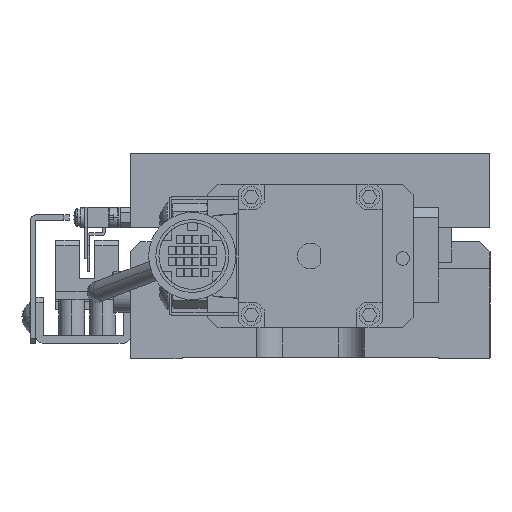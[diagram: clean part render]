
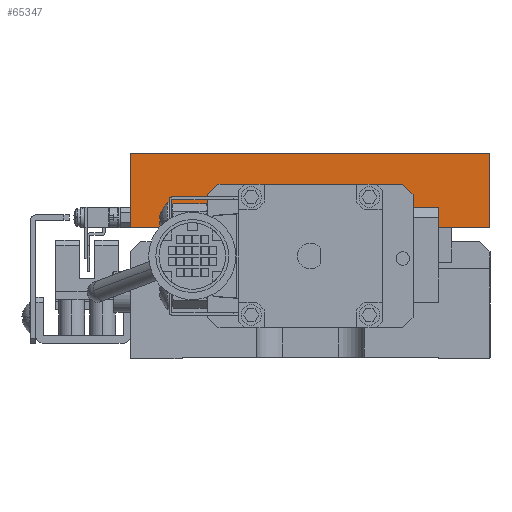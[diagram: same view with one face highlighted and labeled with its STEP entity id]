
A CAD part, left-side view. The second image highlights one B-rep face of the part: STEP entity #65347.
In plain terms, the highlighted planar face has unit normal (-1, 0, 0).
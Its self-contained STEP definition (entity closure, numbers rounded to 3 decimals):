
#1496 = LINE ( 'NONE', #38512, #33780 ) ;
#2208 = LINE ( 'NONE', #25296, #4666 ) ;
#4666 = VECTOR ( 'NONE', #35693, 1000. ) ;
#6062 = ORIENTED_EDGE ( 'NONE', *, *, #43571, .T. ) ;
#6788 = VERTEX_POINT ( 'NONE', #61810 ) ;
#6828 = DIRECTION ( 'NONE',  ( 0., 0., 1. ) ) ;
#7336 = CARTESIAN_POINT ( 'NONE',  ( -22.719, 261.991, 87.75 ) ) ;
#8595 = DIRECTION ( 'NONE',  ( 0., 0., 1. ) ) ;
#8713 = LINE ( 'NONE', #49245, #52647 ) ;
#9232 = CARTESIAN_POINT ( 'NONE',  ( -22.719, 191.991, 73.25 ) ) ;
#17804 = DIRECTION ( 'NONE',  ( 0., 0., 1. ) ) ;
#24278 = EDGE_LOOP ( 'NONE', ( #31377, #27189, #6062, #45689 ) ) ;
#25178 = VERTEX_POINT ( 'NONE', #9232 ) ;
#25296 = CARTESIAN_POINT ( 'NONE',  ( -22.719, 261.991, 73.25 ) ) ;
#27189 = ORIENTED_EDGE ( 'NONE', *, *, #27384, .F. ) ;
#27384 = EDGE_CURVE ( 'NONE', #6788, #50590, #8713, .T. ) ;
#29935 = CARTESIAN_POINT ( 'NONE',  ( -22.719, 261.991, 73.25 ) ) ;
#31377 = ORIENTED_EDGE ( 'NONE', *, *, #58541, .F. ) ;
#32908 = LINE ( 'NONE', #7336, #60281 ) ;
#33780 = VECTOR ( 'NONE', #6828, 1000. ) ;
#35002 = PLANE ( 'NONE',  #63105 ) ;
#35226 = DIRECTION ( 'NONE',  ( -1., 0., 0. ) ) ;
#35693 = DIRECTION ( 'NONE',  ( 0., -1., 0. ) ) ;
#38512 = CARTESIAN_POINT ( 'NONE',  ( -22.719, 191.991, 73.25 ) ) ;
#38568 = DIRECTION ( 'NONE',  ( 0., -1., 0. ) ) ;
#39798 = VERTEX_POINT ( 'NONE', #64956 ) ;
#43571 = EDGE_CURVE ( 'NONE', #6788, #25178, #2208, .T. ) ;
#45689 = ORIENTED_EDGE ( 'NONE', *, *, #64586, .T. ) ;
#49245 = CARTESIAN_POINT ( 'NONE',  ( -22.719, 261.991, 73.25 ) ) ;
#50590 = VERTEX_POINT ( 'NONE', #58255 ) ;
#52647 = VECTOR ( 'NONE', #17804, 1000. ) ;
#55267 = FACE_OUTER_BOUND ( 'NONE', #24278, .T. ) ;
#58255 = CARTESIAN_POINT ( 'NONE',  ( -22.719, 261.991, 87.75 ) ) ;
#58541 = EDGE_CURVE ( 'NONE', #50590, #39798, #32908, .T. ) ;
#60281 = VECTOR ( 'NONE', #38568, 1000. ) ;
#61810 = CARTESIAN_POINT ( 'NONE',  ( -22.719, 261.991, 73.25 ) ) ;
#63105 = AXIS2_PLACEMENT_3D ( 'NONE', #29935, #35226, #8595 ) ;
#64586 = EDGE_CURVE ( 'NONE', #25178, #39798, #1496, .T. ) ;
#64956 = CARTESIAN_POINT ( 'NONE',  ( -22.719, 191.991, 87.75 ) ) ;
#65347 = ADVANCED_FACE ( 'NONE', ( #55267 ), #35002, .T. ) ;
